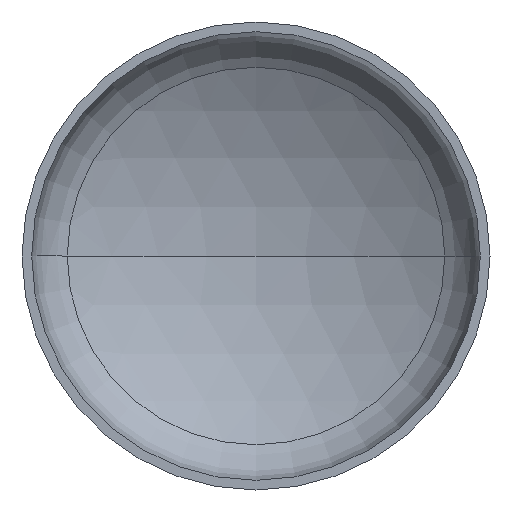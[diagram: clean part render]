
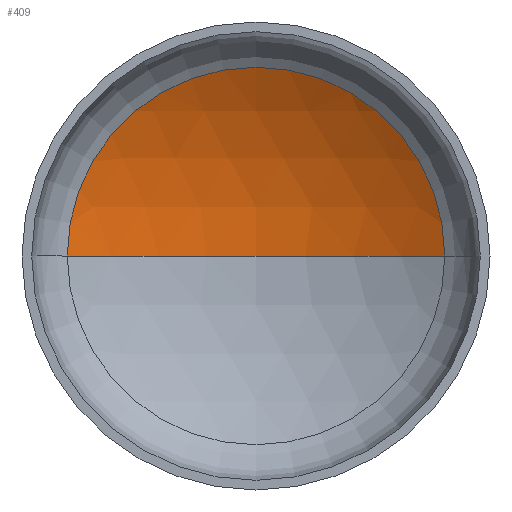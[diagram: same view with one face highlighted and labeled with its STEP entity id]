
A CAD part, front view. The second image highlights one B-rep face of the part: STEP entity #409.
In plain terms, the highlighted spherical face has radius 2400 mm.
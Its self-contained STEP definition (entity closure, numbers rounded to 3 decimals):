
#18 = CARTESIAN_POINT ( 'NONE',  ( 0., -1555.445, 0. ) ) ;
#19 = AXIS2_PLACEMENT_3D ( 'NONE', #18, #276, #110 ) ;
#21 = SPHERICAL_SURFACE ( 'NONE', #290, 2400. ) ;
#24 = AXIS2_PLACEMENT_3D ( 'NONE', #211, #379, #235 ) ;
#25 = ORIENTED_EDGE ( 'NONE', *, *, #338, .T. ) ;
#62 = CARTESIAN_POINT ( 'NONE',  ( 1209.897, 517.27, 0. ) ) ;
#75 = VERTEX_POINT ( 'NONE', #62 ) ;
#81 = ORIENTED_EDGE ( 'NONE', *, *, #345, .T. ) ;
#91 = VERTEX_POINT ( 'NONE', #197 ) ;
#92 = ORIENTED_EDGE ( 'NONE', *, *, #377, .F. ) ;
#110 = DIRECTION ( 'NONE',  ( -1., 0., 0. ) ) ;
#130 = CIRCLE ( 'NONE', #24, 1209.897 ) ;
#132 = EDGE_LOOP ( 'NONE', ( #92, #81, #25 ) ) ;
#146 = VERTEX_POINT ( 'NONE', #198 ) ;
#187 = DIRECTION ( 'NONE',  ( 0., 0., -1. ) ) ;
#197 = CARTESIAN_POINT ( 'NONE',  ( -1209.897, 517.27, 0. ) ) ;
#198 = CARTESIAN_POINT ( 'NONE',  ( 0., 844.555, 0. ) ) ;
#211 = CARTESIAN_POINT ( 'NONE',  ( 0., 517.27, 0. ) ) ;
#215 = DIRECTION ( 'NONE',  ( 0., 0., 1. ) ) ;
#223 = AXIS2_PLACEMENT_3D ( 'NONE', #363, #215, #383 ) ;
#235 = DIRECTION ( 'NONE',  ( 1., 0., 0. ) ) ;
#237 = CARTESIAN_POINT ( 'NONE',  ( 0., -1555.445, 0. ) ) ;
#246 = CIRCLE ( 'NONE', #223, 2400. ) ;
#276 = DIRECTION ( 'NONE',  ( 0., 0., -1. ) ) ;
#280 = DIRECTION ( 'NONE',  ( -1., 0., 0. ) ) ;
#290 = AXIS2_PLACEMENT_3D ( 'NONE', #237, #187, #280 ) ;
#338 = EDGE_CURVE ( 'NONE', #75, #91, #130, .T. ) ;
#345 = EDGE_CURVE ( 'NONE', #146, #75, #392, .T. ) ;
#363 = CARTESIAN_POINT ( 'NONE',  ( 0., -1555.445, 0. ) ) ;
#372 = FACE_OUTER_BOUND ( 'NONE', #132, .T. ) ;
#377 = EDGE_CURVE ( 'NONE', #146, #91, #246, .T. ) ;
#379 = DIRECTION ( 'NONE',  ( 0., -1., 0. ) ) ;
#383 = DIRECTION ( 'NONE',  ( 1., 0., 0. ) ) ;
#392 = CIRCLE ( 'NONE', #19, 2400. ) ;
#409 = ADVANCED_FACE ( 'NONE', ( #372 ), #21, .F. ) ;
